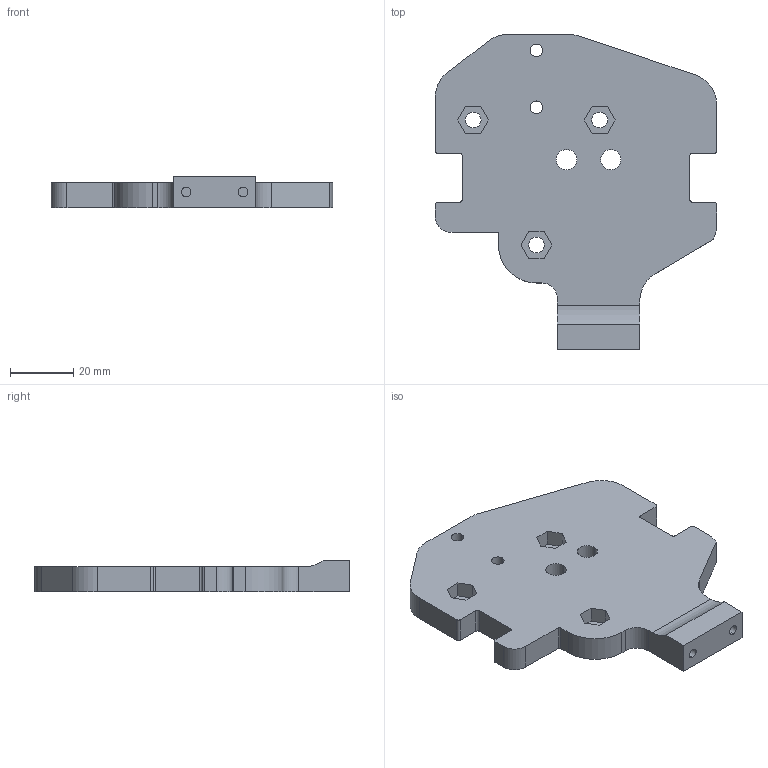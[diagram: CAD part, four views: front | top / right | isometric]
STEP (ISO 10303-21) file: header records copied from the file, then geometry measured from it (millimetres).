
FILE_DESCRIPTION (( 'STEP AP203' ), '1' );
FILE_NAME ('Ender 5 Moutnig Plate Side Mount.STEP', '2022-07-25T01:12:50', ( '' ), ( '' ), 'SwSTEP 2.0', 'SolidWorks 2021', '' );
FILE_SCHEMA (( 'CONFIG_CONTROL_DESIGN' ));
Length unit declared in the file: millimetre
Products named in the file (1): Ender 5 Moutnig Plate Side Mount
Bounding box: 89 x 99.5 x 10 mm (x, y, z)
Volume: 48372.5 mm3; surface area: 16460.1 mm2
Topology: 1 solids, 1 shells, 87 faces, 238 edges, 157 vertices
Faces by surface type: plane 46, cylinder 37, cone 4
Entity records: 2876 total; most frequent: DIRECTION 493, CARTESIAN_POINT 483, ORIENTED_EDGE 476, EDGE_CURVE 238, AXIS2_PLACEMENT_3D 167, VECTOR 159, LINE 159, VERTEX_POINT 157
